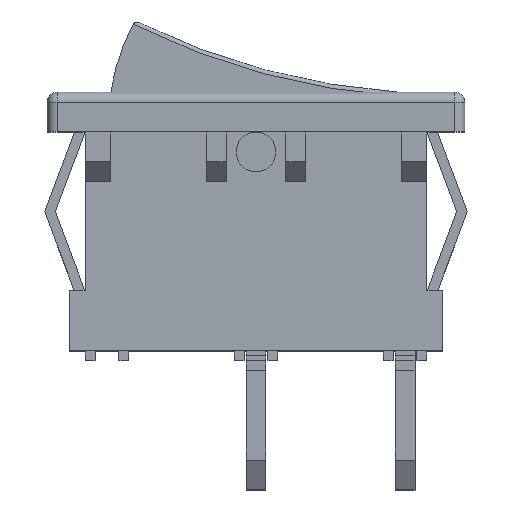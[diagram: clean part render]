
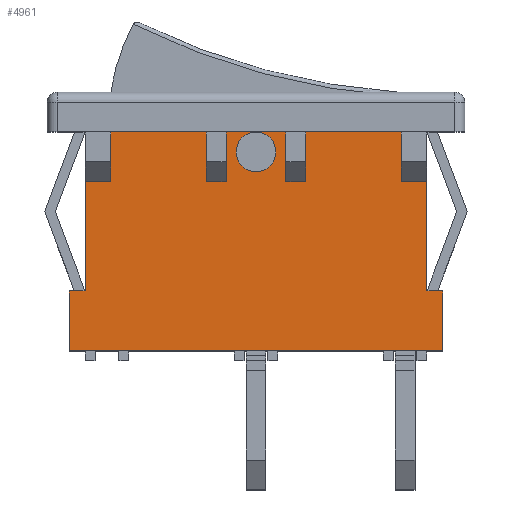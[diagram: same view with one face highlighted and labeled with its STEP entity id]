
A CAD part, top view. The second image highlights one B-rep face of the part: STEP entity #4961.
In plain terms, the highlighted planar face has unit normal (0, 0, -1).
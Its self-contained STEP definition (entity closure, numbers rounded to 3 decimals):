
#58=PLANE('',#5496);
#370=FACE_OUTER_BOUND('',#544,.T.);
#544=EDGE_LOOP('',(#4235,#4236,#4237,#4238,#4239,#4240,#4241,#4242,#4243,
#4244,#4245,#4246,#4247,#4248,#4249,#4250,#4251,#4252,#4253,#4254,#4255,
#4256));
#836=LINE('',#7710,#1620);
#837=LINE('',#7712,#1621);
#838=LINE('',#7714,#1622);
#839=LINE('',#7716,#1623);
#840=LINE('',#7718,#1624);
#841=LINE('',#7720,#1625);
#842=LINE('',#7722,#1626);
#843=LINE('',#7724,#1627);
#844=LINE('',#7726,#1628);
#845=LINE('',#7728,#1629);
#846=LINE('',#7730,#1630);
#847=LINE('',#7732,#1631);
#848=LINE('',#7734,#1632);
#849=LINE('',#7736,#1633);
#850=LINE('',#7738,#1634);
#851=LINE('',#7740,#1635);
#852=LINE('',#7742,#1636);
#853=LINE('',#7744,#1637);
#854=LINE('',#7746,#1638);
#855=LINE('',#7748,#1639);
#856=LINE('',#7749,#1640);
#1620=VECTOR('',#5927,1.5);
#1621=VECTOR('',#5928,2.5);
#1622=VECTOR('',#5929,1.);
#1623=VECTOR('',#5930,2.5);
#1624=VECTOR('',#5931,4.8);
#1625=VECTOR('',#5932,2.5);
#1626=VECTOR('',#5933,1.3);
#1627=VECTOR('',#5934,5.5);
#1628=VECTOR('',#5935,0.8);
#1629=VECTOR('',#5936,3.);
#1630=VECTOR('',#5937,18.8);
#1631=VECTOR('',#5938,3.);
#1632=VECTOR('',#5939,0.8);
#1633=VECTOR('',#5940,5.5);
#1634=VECTOR('',#5941,1.3);
#1635=VECTOR('',#5942,2.5);
#1636=VECTOR('',#5943,4.8);
#1637=VECTOR('',#5944,2.5);
#1638=VECTOR('',#5945,1.);
#1639=VECTOR('',#5946,2.5);
#1640=VECTOR('',#5947,1.5);
#2290=CIRCLE('',#5497,1.);
#2508=VERTEX_POINT('',#7707);
#2509=VERTEX_POINT('',#7709);
#2510=VERTEX_POINT('',#7711);
#2511=VERTEX_POINT('',#7713);
#2512=VERTEX_POINT('',#7715);
#2513=VERTEX_POINT('',#7717);
#2514=VERTEX_POINT('',#7719);
#2515=VERTEX_POINT('',#7721);
#2516=VERTEX_POINT('',#7723);
#2517=VERTEX_POINT('',#7725);
#2518=VERTEX_POINT('',#7727);
#2519=VERTEX_POINT('',#7729);
#2520=VERTEX_POINT('',#7731);
#2521=VERTEX_POINT('',#7733);
#2522=VERTEX_POINT('',#7735);
#2523=VERTEX_POINT('',#7737);
#2524=VERTEX_POINT('',#7739);
#2525=VERTEX_POINT('',#7741);
#2526=VERTEX_POINT('',#7743);
#2527=VERTEX_POINT('',#7745);
#2528=VERTEX_POINT('',#7747);
#3371=EDGE_CURVE('',#2508,#2508,#2290,.T.);
#3372=EDGE_CURVE('',#2508,#2509,#836,.T.);
#3373=EDGE_CURVE('',#2509,#2510,#837,.T.);
#3374=EDGE_CURVE('',#2510,#2511,#838,.T.);
#3375=EDGE_CURVE('',#2511,#2512,#839,.T.);
#3376=EDGE_CURVE('',#2512,#2513,#840,.T.);
#3377=EDGE_CURVE('',#2513,#2514,#841,.T.);
#3378=EDGE_CURVE('',#2514,#2515,#842,.T.);
#3379=EDGE_CURVE('',#2515,#2516,#843,.T.);
#3380=EDGE_CURVE('',#2516,#2517,#844,.T.);
#3381=EDGE_CURVE('',#2517,#2518,#845,.T.);
#3382=EDGE_CURVE('',#2518,#2519,#846,.T.);
#3383=EDGE_CURVE('',#2519,#2520,#847,.T.);
#3384=EDGE_CURVE('',#2520,#2521,#848,.T.);
#3385=EDGE_CURVE('',#2521,#2522,#849,.T.);
#3386=EDGE_CURVE('',#2522,#2523,#850,.T.);
#3387=EDGE_CURVE('',#2523,#2524,#851,.T.);
#3388=EDGE_CURVE('',#2524,#2525,#852,.T.);
#3389=EDGE_CURVE('',#2525,#2526,#853,.T.);
#3390=EDGE_CURVE('',#2526,#2527,#854,.T.);
#3391=EDGE_CURVE('',#2527,#2528,#855,.T.);
#3392=EDGE_CURVE('',#2528,#2508,#856,.T.);
#4235=ORIENTED_EDGE('',*,*,#3371,.T.);
#4236=ORIENTED_EDGE('',*,*,#3372,.T.);
#4237=ORIENTED_EDGE('',*,*,#3373,.T.);
#4238=ORIENTED_EDGE('',*,*,#3374,.T.);
#4239=ORIENTED_EDGE('',*,*,#3375,.T.);
#4240=ORIENTED_EDGE('',*,*,#3376,.T.);
#4241=ORIENTED_EDGE('',*,*,#3377,.T.);
#4242=ORIENTED_EDGE('',*,*,#3378,.T.);
#4243=ORIENTED_EDGE('',*,*,#3379,.T.);
#4244=ORIENTED_EDGE('',*,*,#3380,.T.);
#4245=ORIENTED_EDGE('',*,*,#3381,.T.);
#4246=ORIENTED_EDGE('',*,*,#3382,.T.);
#4247=ORIENTED_EDGE('',*,*,#3383,.T.);
#4248=ORIENTED_EDGE('',*,*,#3384,.T.);
#4249=ORIENTED_EDGE('',*,*,#3385,.T.);
#4250=ORIENTED_EDGE('',*,*,#3386,.T.);
#4251=ORIENTED_EDGE('',*,*,#3387,.T.);
#4252=ORIENTED_EDGE('',*,*,#3388,.T.);
#4253=ORIENTED_EDGE('',*,*,#3389,.T.);
#4254=ORIENTED_EDGE('',*,*,#3390,.T.);
#4255=ORIENTED_EDGE('',*,*,#3391,.T.);
#4256=ORIENTED_EDGE('',*,*,#3392,.T.);
#4961=ADVANCED_FACE('',(#370),#58,.T.);
#5496=AXIS2_PLACEMENT_3D('',#7706,#5923,#5924);
#5497=AXIS2_PLACEMENT_3D('',#7708,#5925,#5926);
#5923=DIRECTION('center_axis',(0.,0.,-1.));
#5924=DIRECTION('ref_axis',(-1.,0.,0.));
#5925=DIRECTION('center_axis',(0.,0.,1.));
#5926=DIRECTION('ref_axis',(1.,0.,0.));
#5927=DIRECTION('',(1.,0.,0.));
#5928=DIRECTION('',(0.,-1.,0.));
#5929=DIRECTION('',(1.,0.,0.));
#5930=DIRECTION('',(0.,1.,0.));
#5931=DIRECTION('',(1.,0.,0.));
#5932=DIRECTION('',(0.,-1.,0.));
#5933=DIRECTION('',(1.,0.,0.));
#5934=DIRECTION('',(0.,-1.,0.));
#5935=DIRECTION('',(1.,0.,0.));
#5936=DIRECTION('',(0.,-1.,0.));
#5937=DIRECTION('',(-1.,0.,0.));
#5938=DIRECTION('',(0.,1.,0.));
#5939=DIRECTION('',(1.,0.,0.));
#5940=DIRECTION('',(0.,1.,0.));
#5941=DIRECTION('',(1.,0.,0.));
#5942=DIRECTION('',(0.,1.,0.));
#5943=DIRECTION('',(1.,0.,0.));
#5944=DIRECTION('',(0.,-1.,0.));
#5945=DIRECTION('',(1.,0.,0.));
#5946=DIRECTION('',(0.,1.,0.));
#5947=DIRECTION('',(1.,0.,0.));
#7706=CARTESIAN_POINT('Origin',(0.,-5.5,6.1));
#7707=CARTESIAN_POINT('',(0.,5.5,6.1));
#7708=CARTESIAN_POINT('Origin',(0.,4.5,6.1));
#7709=CARTESIAN_POINT('',(1.5,5.5,6.1));
#7710=CARTESIAN_POINT('',(0.,5.5,6.1));
#7711=CARTESIAN_POINT('',(1.5,3.,6.1));
#7712=CARTESIAN_POINT('',(1.5,5.5,6.1));
#7713=CARTESIAN_POINT('',(2.5,3.,6.1));
#7714=CARTESIAN_POINT('',(1.5,3.,6.1));
#7715=CARTESIAN_POINT('',(2.5,5.5,6.1));
#7716=CARTESIAN_POINT('',(2.5,3.,6.1));
#7717=CARTESIAN_POINT('',(7.3,5.5,6.1));
#7718=CARTESIAN_POINT('',(2.5,5.5,6.1));
#7719=CARTESIAN_POINT('',(7.3,3.,6.1));
#7720=CARTESIAN_POINT('',(7.3,5.5,6.1));
#7721=CARTESIAN_POINT('',(8.6,3.,6.1));
#7722=CARTESIAN_POINT('',(7.3,3.,6.1));
#7723=CARTESIAN_POINT('',(8.6,-2.5,6.1));
#7724=CARTESIAN_POINT('',(8.6,3.,6.1));
#7725=CARTESIAN_POINT('',(9.4,-2.5,6.1));
#7726=CARTESIAN_POINT('',(8.6,-2.5,6.1));
#7727=CARTESIAN_POINT('',(9.4,-5.5,6.1));
#7728=CARTESIAN_POINT('',(9.4,-2.5,6.1));
#7729=CARTESIAN_POINT('',(-9.4,-5.5,6.1));
#7730=CARTESIAN_POINT('',(9.4,-5.5,6.1));
#7731=CARTESIAN_POINT('',(-9.4,-2.5,6.1));
#7732=CARTESIAN_POINT('',(-9.4,-5.5,6.1));
#7733=CARTESIAN_POINT('',(-8.6,-2.5,6.1));
#7734=CARTESIAN_POINT('',(-9.4,-2.5,6.1));
#7735=CARTESIAN_POINT('',(-8.6,3.,6.1));
#7736=CARTESIAN_POINT('',(-8.6,-2.5,6.1));
#7737=CARTESIAN_POINT('',(-7.3,3.,6.1));
#7738=CARTESIAN_POINT('',(-8.6,3.,6.1));
#7739=CARTESIAN_POINT('',(-7.3,5.5,6.1));
#7740=CARTESIAN_POINT('',(-7.3,3.,6.1));
#7741=CARTESIAN_POINT('',(-2.5,5.5,6.1));
#7742=CARTESIAN_POINT('',(-7.3,5.5,6.1));
#7743=CARTESIAN_POINT('',(-2.5,3.,6.1));
#7744=CARTESIAN_POINT('',(-2.5,5.5,6.1));
#7745=CARTESIAN_POINT('',(-1.5,3.,6.1));
#7746=CARTESIAN_POINT('',(-2.5,3.,6.1));
#7747=CARTESIAN_POINT('',(-1.5,5.5,6.1));
#7748=CARTESIAN_POINT('',(-1.5,3.,6.1));
#7749=CARTESIAN_POINT('',(-1.5,5.5,6.1));
